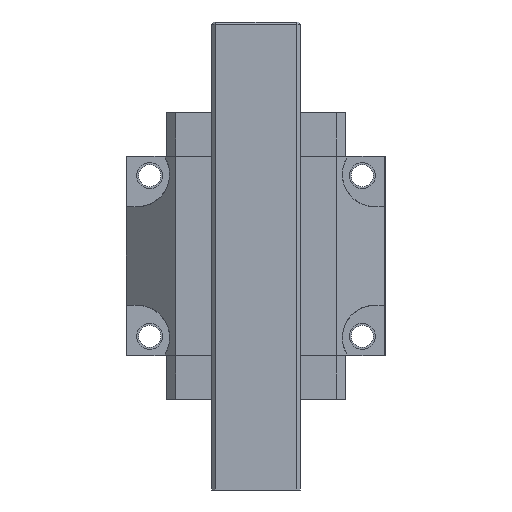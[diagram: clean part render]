
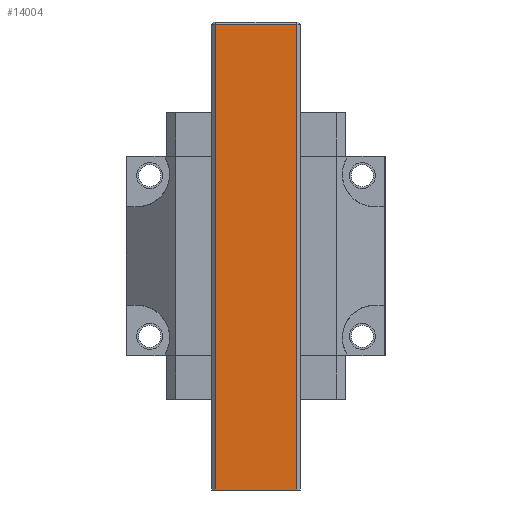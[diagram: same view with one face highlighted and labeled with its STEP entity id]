
A CAD part, front view. The second image highlights one B-rep face of the part: STEP entity #14004.
In plain terms, the highlighted planar face has unit normal (0, -1, 0).
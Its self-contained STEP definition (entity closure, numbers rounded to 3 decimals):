
#12965=DIRECTION('',(1.,0.,0.));
#12966=VECTOR('',#12965,31.6);
#12967=CARTESIAN_POINT('',(-15.8,-18.5,-90.25));
#12968=LINE('',#12967,#12966);
#13238=DIRECTION('',(1.,0.,0.));
#13239=VECTOR('',#13238,31.6);
#13240=CARTESIAN_POINT('',(-15.8,-18.5,89.384));
#13241=LINE('',#13240,#13239);
#13242=DIRECTION('',(0.,0.,1.));
#13243=VECTOR('',#13242,179.634);
#13244=CARTESIAN_POINT('',(-15.8,-18.5,-90.25));
#13245=LINE('',#13244,#13243);
#13250=DIRECTION('',(0.,0.,1.));
#13251=VECTOR('',#13250,179.634);
#13252=CARTESIAN_POINT('',(15.8,-18.5,-90.25));
#13253=LINE('',#13252,#13251);
#13436=CARTESIAN_POINT('',(-15.8,-18.5,-90.25));
#13437=VERTEX_POINT('',#13436);
#13438=CARTESIAN_POINT('',(15.8,-18.5,-90.25));
#13439=VERTEX_POINT('',#13438);
#13500=CARTESIAN_POINT('',(15.8,-18.5,89.384));
#13501=VERTEX_POINT('',#13500);
#13504=CARTESIAN_POINT('',(-15.8,-18.5,89.384));
#13505=VERTEX_POINT('',#13504);
#13992=CARTESIAN_POINT('',(-15.8,-18.5,-90.25));
#13993=DIRECTION('',(0.,-1.,0.));
#13994=DIRECTION('',(1.,0.,0.));
#13995=AXIS2_PLACEMENT_3D('',#13992,#13993,#13994);
#13996=PLANE('',#13995);
#13997=ORIENTED_EDGE('',*,*,#13983,.T.);
#13999=ORIENTED_EDGE('',*,*,#13998,.F.);
#14000=ORIENTED_EDGE('',*,*,#13585,.F.);
#14001=ORIENTED_EDGE('',*,*,#13958,.T.);
#14002=EDGE_LOOP('',(#13997,#13999,#14000,#14001));
#14003=FACE_OUTER_BOUND('',#14002,.F.);
#13585=EDGE_CURVE('',#13437,#13439,#12968,.T.);
#13958=EDGE_CURVE('',#13437,#13505,#13245,.T.);
#13983=EDGE_CURVE('',#13505,#13501,#13241,.T.);
#13998=EDGE_CURVE('',#13439,#13501,#13253,.T.);
#14004=ADVANCED_FACE('',(#14003),#13996,.T.);
